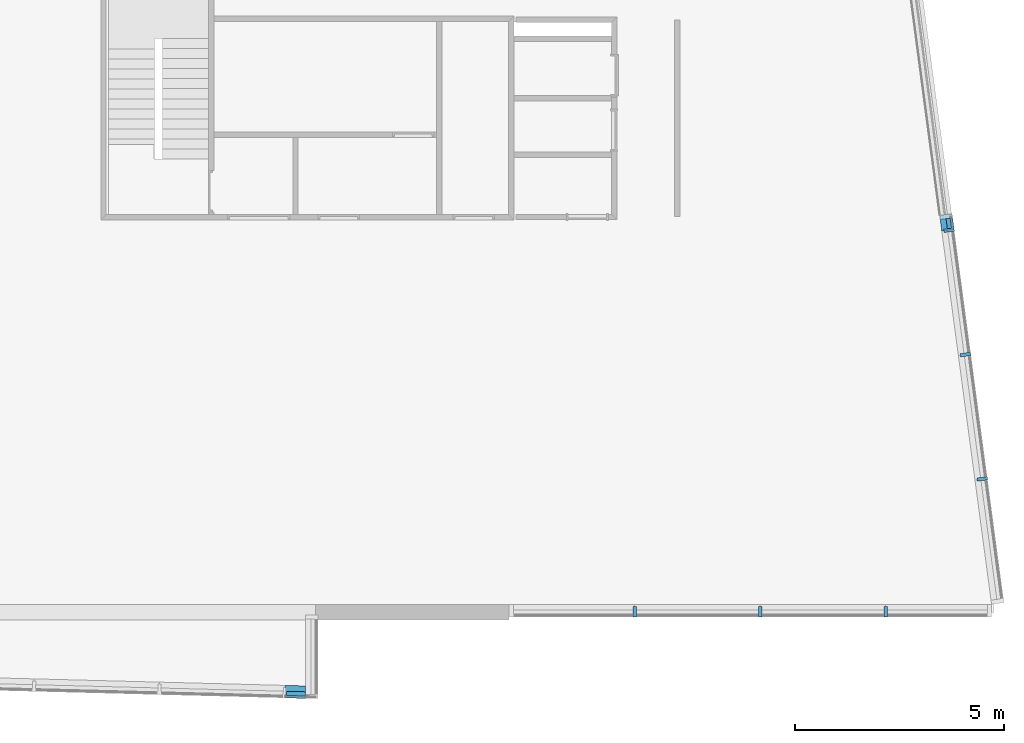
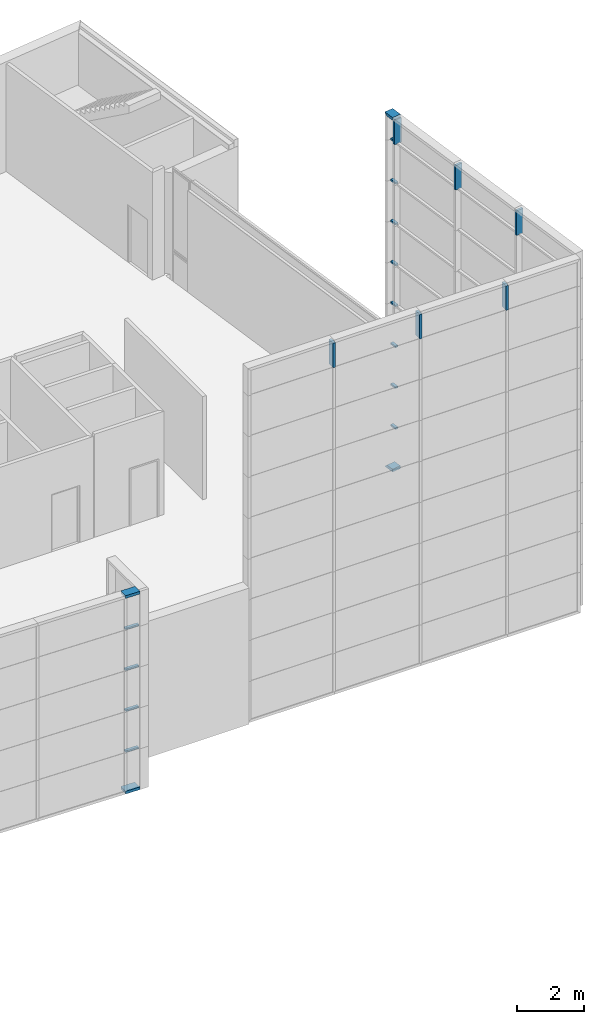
# One storey, part 13 of 27: 22 members, 3 elements without a shape of their own.
"""IFC2X3 building model written with IfcOpenShell, lengths in metres."""

from ifc_helpers import new_model, entity, si_unit, converted_unit, money_unit, direction, frame, origin_with_axes, place, context, subcontext, project, spatial, polyline, outline, extrude, clip, halfspace, material, type_object, element, aggregate, save


model = new_model("IFC2X3")

# Units and contexts
model_context = context("Model", 3, precision=1e-05, world=origin_with_axes(), true_north=direction((0.0, 1.0)))
body_context = subcontext(model_context, "Body", "Model", "MODEL_VIEW")
ifc_project = project(units=[si_unit("LENGTHUNIT", "METRE"), si_unit("AREAUNIT", "SQUARE_METRE"), si_unit("VOLUMEUNIT", "CUBIC_METRE"), converted_unit("PLANEANGLEUNIT", "DEGREE", entity("IfcPlaneAngleMeasure", 0.0174532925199), si_unit("PLANEANGLEUNIT", "RADIAN"), dimensions=[0, 0, 0, 0, 0, 0, 0]), si_unit("SOLIDANGLEUNIT", "STERADIAN"), money_unit("EUR"), converted_unit("TIMEUNIT", "Year", entity("IfcTimeMeasure", 31556926.0), si_unit("TIMEUNIT", "SECOND"), dimensions=[0, 0, 0, 0, 0, 0, 0]), si_unit("MASSUNIT", "GRAM"), si_unit("THERMODYNAMICTEMPERATUREUNIT", "DEGREE_CELSIUS"), si_unit("LUMINOUSINTENSITYUNIT", "LUMEN")], contexts=[model_context])

# Site, building, storey
site_placement = place(None, origin_with_axes())
site = spatial("IfcSite", under=ifc_project, at=site_placement, Name="Undefined", CompositionType="ELEMENT")
building_placement = place(site_placement, origin_with_axes())
building = spatial("IfcBuilding", under=site, at=building_placement, Name="Undefined", CompositionType="ELEMENT")
storey_placement = place(building_placement, frame((0.0, 0.0, 5.4), z_axis=(0.0, 0.0, 1.0), x_axis=(1.0, 0.0, 0.0)))
storey = spatial("IfcBuildingStorey", under=building, at=storey_placement, Name="R+1", CompositionType="ELEMENT", Elevation=5.4)

# Curtain wall, members
curtain_wall_type = type_object("IfcCurtainWallType", Name="Type de mur-rideau", PredefinedType="NOTDEFINED")
curtain_wall_1_placement = place(storey_placement, frame((68.4320700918, 1.51988738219, -1.0), z_axis=(0.0, 0.0, 1.0), x_axis=(1.0, 0.0, 0.0)))
curtain_wall_1 = element("IfcCurtainWall", 1, at=curtain_wall_1_placement, inside=storey, type_object=curtain_wall_type, Name="CurtainWall_01", ObjectType="CURTAIN WALL")
ifc_material = material(Name="25 % 359672764")
member_type_1 = type_object("IfcMemberType", Name="Cadre 100 x 300", PredefinedType="NOTDEFINED")
member_1_placement = place(curtain_wall_1_placement, frame((-0.991919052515, 7.43411706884, 0.0), z_axis=(-0.132255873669, 0.991215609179, 0.0), x_axis=(0.0, 0.0, 1.0)))
member_1 = element("IfcMember", 2, at=member_1_placement, type_object=member_type_1, material=ifc_material, Name="Frame-Bnd-830", context=body_context, shape_type="Clipping", body=[
    clip(extrude(outline(polyline([(-0.25, -0.1), (0.05, -0.1), (0.05, 0.0), (-0.25, 0.0), (-0.25, -0.1)])), frame((0.0, 0.0, 0.0), z_axis=(0.0, 0.0, 1.0), x_axis=(0.0, 1.0, 0.0)), (0.0, 0.0, 1.0), 0.382418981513), halfspace(frame((0.191209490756, 0.0, 0.191209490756), z_axis=(-0.707106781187, 0.0, -0.707106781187), x_axis=(0.0, 1.0, 0.0)), True)),
])
member_2_placement = place(curtain_wall_1_placement, frame((-1.04249621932, 7.81317680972, 13.0000000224), z_axis=(0.132255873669, -0.991215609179, 0.0), x_axis=(0.0, 0.0, -1.0)))
member_2 = element("IfcMember", 3, at=member_2_placement, type_object=member_type_1, material=ifc_material, Name="Frame-Bnd-869", context=body_context, shape_type="Clipping", body=[
    clip(extrude(outline(polyline([(0.25, 0.1), (-0.05, 0.1), (-0.05, 0.0), (0.25, 0.0), (0.25, 0.1)])), frame((0.0, 0.0, 0.0), z_axis=(0.0, 0.0, 1.0), x_axis=(0.0, -1.0, 0.0)), (0.0, 0.0, 1.0), 0.382419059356), halfspace(frame((0.0, 0.0, 0.0), z_axis=(-0.707106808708, 0.0, 0.707106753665), x_axis=(0.0, -1.0, 0.0)), True)),
])

curtain_wall_2_placement = place(storey_placement, frame((10.9994920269, -1.13484133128, -0.55), z_axis=(0.0, 0.0, 1.0), x_axis=(1.0, 0.0, 0.0)))
curtain_wall_2 = element("IfcCurtainWall", 4, at=curtain_wall_2_placement, inside=storey, type_object=curtain_wall_type, Name="CurtainWall_01", ObjectType="CURTAIN WALL")
member_3_placement = place(curtain_wall_2_placement, frame((40.4862855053, -1.05389087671, 0.0), z_axis=(0.999661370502, -0.0260219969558, 0.0), x_axis=(0.0, 0.0, 1.0)))
member_3 = element("IfcMember", 5, at=member_3_placement, type_object=member_type_1, material=ifc_material, Name="Frame-Bnd-565", context=body_context, shape_type="Clipping", body=[
    clip(extrude(outline(polyline([(-0.25, -0.1), (0.05, -0.1), (0.05, 0.0), (-0.25, 0.0), (-0.25, -0.1)])), frame((0.0, 0.0, 0.0), z_axis=(0.0, 0.0, 1.0), x_axis=(0.0, 1.0, 0.0)), (0.0, 0.0, 1.0), 0.49012124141), halfspace(frame((0.0, -0.0127157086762, 0.488488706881), z_axis=(0.0, 0.0260218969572, -0.999661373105), x_axis=(0.0, 0.999661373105, 0.0260218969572)), True)),
])
member_4_placement = place(curtain_wall_2_placement, frame((41.2249396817, -1.07311864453, 7.27506830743), z_axis=(-0.999661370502, 0.0260219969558, 0.0), x_axis=(0.0, 0.0, -1.0)))
member_4 = element("IfcMember", 6, at=member_4_placement, type_object=member_type_1, material=ifc_material, Name="Frame-Bnd-862", context=body_context, shape_type="Clipping", body=[
    clip(extrude(outline(polyline([(0.25, 0.1), (-0.05, 0.1), (-0.05, 0.0), (0.25, 0.0), (0.25, 0.1)])), frame((0.0, 0.0, 0.248783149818), z_axis=(0.0, 0.0, 1.0), x_axis=(0.0, -1.0, 0.0)), (0.0, 0.0, 1.0), 0.49012124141), halfspace(frame((0.0, 0.0065054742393, 0.249915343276), z_axis=(0.0, 0.0260218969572, 0.999661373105), x_axis=(0.0, -0.999661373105, 0.0260218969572)), True)),
])

# Member
member_type_2 = type_object("IfcMemberType", Name="Montant 80 x 250", PredefinedType="NOTDEFINED")
member_5_placement = place(curtain_wall_1_placement, frame((-0.991919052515, 7.43411706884, 12.0), z_axis=(0.0, 0.0, 1.0), x_axis=(0.132255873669, -0.991215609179, 0.0)))
member_5 = element("IfcMember", 7, at=member_5_placement, type_object=member_type_2, material=ifc_material, Name="Frame-Mll-307", context=body_context, shape_type="SweptSolid", body=[
    extrude(outline(polyline([(-0.192952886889, -0.0660997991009), (0.0548510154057, -0.0330358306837), (0.0442705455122, 0.0462614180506), (-0.203533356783, 0.0131974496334), (-0.192952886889, -0.0660997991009)])), frame((0.0, 0.0, 0.0), z_axis=(0.0, 0.0, 1.0), x_axis=(0.132255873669, 0.991215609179, 0.0)), (0.0, 0.0, 1.0), 0.900000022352),
])

member_6_placement = place(curtain_wall_1_placement, frame((-0.595151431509, 4.46047024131, 12.0), z_axis=(0.0, 0.0, 1.0), x_axis=(0.132255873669, -0.991215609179, 0.0)))
member_6 = element("IfcMember", 8, at=member_6_placement, type_object=member_type_2, material=ifc_material, Name="Frame-Mll-306", context=body_context, shape_type="SweptSolid", body=[
    extrude(outline(polyline([(-0.192952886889, -0.0660997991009), (0.0548510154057, -0.0330358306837), (0.0442705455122, 0.0462614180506), (-0.203533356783, 0.0131974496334), (-0.192952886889, -0.0660997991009)])), frame((0.0, 0.0, 0.0), z_axis=(0.0, 0.0, 1.0), x_axis=(0.132255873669, 0.991215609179, 0.0)), (0.0, 0.0, 1.0), 0.900000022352),
])

member_7_placement = place(curtain_wall_1_placement, frame((-0.198383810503, 1.48682341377, 12.0), z_axis=(0.0, 0.0, 1.0), x_axis=(0.132255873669, -0.991215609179, 0.0)))
member_7 = element("IfcMember", 9, at=member_7_placement, type_object=member_type_2, material=ifc_material, Name="Frame-Mll-305", context=body_context, shape_type="SweptSolid", body=[
    extrude(outline(polyline([(-0.192952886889, -0.0660997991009), (0.0548510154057, -0.0330358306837), (0.0442705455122, 0.0462614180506), (-0.203533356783, 0.0131974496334), (-0.192952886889, -0.0660997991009)])), frame((0.0, 0.0, 0.0), z_axis=(0.0, 0.0, 1.0), x_axis=(0.132255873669, 0.991215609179, 0.0)), (0.0, 0.0, 1.0), 0.900000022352),
])

# Curtain wall, members
curtain_wall_3_placement = place(storey_placement, frame((58.35, -0.25, -1.0), z_axis=(0.0, 0.0, 1.0), x_axis=(1.0, 0.0, 0.0)))
curtain_wall_3 = element("IfcCurtainWall", 10, at=curtain_wall_3_placement, inside=storey, type_object=curtain_wall_type, Name="CurtainWall_01", ObjectType="CURTAIN WALL")
member_8_placement = place(curtain_wall_3_placement, frame((1.5, 0.0, 12.0), z_axis=(0.0, 0.0, 1.0), x_axis=(-1.0, 0.0, 0.0)))
member_8 = element("IfcMember", 11, at=member_8_placement, type_object=member_type_2, material=ifc_material, Name="Frame-Mll-314", context=body_context, shape_type="SweptSolid", body=[
    extrude(outline(polyline([(-0.04, 0.2), (-0.04, -0.05), (0.04, -0.05), (0.04, 0.2), (-0.04, 0.2)])), frame((0.0, 0.0, 0.0), z_axis=(0.0, 0.0, 1.0), x_axis=(-1.0, 0.0, 0.0)), (0.0, 0.0, 1.0), 0.900000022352),
])
member_9_placement = place(curtain_wall_3_placement, frame((4.5, 0.0, 12.0), z_axis=(0.0, 0.0, 1.0), x_axis=(-1.0, 0.0, 0.0)))
member_9 = element("IfcMember", 12, at=member_9_placement, type_object=member_type_2, material=ifc_material, Name="Frame-Mll-315", context=body_context, shape_type="SweptSolid", body=[
    extrude(outline(polyline([(-0.04, 0.2), (-0.04, -0.05), (0.04, -0.05), (0.04, 0.2), (-0.04, 0.2)])), frame((0.0, 0.0, 0.0), z_axis=(0.0, 0.0, 1.0), x_axis=(-1.0, 0.0, 0.0)), (0.0, 0.0, 1.0), 0.900000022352),
])
member_10_placement = place(curtain_wall_3_placement, frame((7.5, 0.0, 12.0), z_axis=(0.0, 0.0, 1.0), x_axis=(-1.0, 0.0, 0.0)))
member_10 = element("IfcMember", 13, at=member_10_placement, type_object=member_type_2, material=ifc_material, Name="Frame-Mll-316", context=body_context, shape_type="SweptSolid", body=[
    extrude(outline(polyline([(-0.04, 0.2), (-0.04, -0.05), (0.04, -0.05), (0.04, 0.2), (-0.04, 0.2)])), frame((0.0, 0.0, 0.0), z_axis=(0.0, 0.0, 1.0), x_axis=(-1.0, 0.0, 0.0)), (0.0, 0.0, 1.0), 0.900000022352),
])
aggregate(curtain_wall_3, [member_8, member_9, member_10])

# Member
member_type_3 = type_object("IfcMemberType", Name="Traverse 60 x 100", PredefinedType="NOTDEFINED")
member_11_placement = place(curtain_wall_1_placement, frame((-0.991919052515, 7.43411706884, 3.0), z_axis=(-0.132255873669, 0.991215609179, 0.0), x_axis=(0.0, 0.0, 1.0)))
member_11 = element("IfcMember", 14, at=member_11_placement, type_object=member_type_3, material=ifc_material, Name="Frame-Trs-757", context=body_context, shape_type="SweptSolid", body=[
    extrude(outline(polyline([(-0.11, -0.03), (-0.00999999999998, -0.03), (-0.00999999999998, 0.03), (-0.11, 0.03), (-0.11, -0.03)])), frame((0.0, 0.0, 0.04), z_axis=(0.0, 0.0, 1.0), x_axis=(0.0, 1.0, 0.0)), (0.0, 0.0, 1.0), 0.242418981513),
])

member_12_placement = place(curtain_wall_1_placement, frame((-0.991919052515, 7.43411706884, 10.5), z_axis=(-0.132255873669, 0.991215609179, 0.0), x_axis=(0.0, 0.0, 1.0)))
member_12 = element("IfcMember", 15, at=member_12_placement, type_object=member_type_3, material=ifc_material, Name="Frame-Trs-752", context=body_context, shape_type="SweptSolid", body=[
    extrude(outline(polyline([(-0.11, -0.03), (-0.00999999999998, -0.03), (-0.00999999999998, 0.03), (-0.11, 0.03), (-0.11, -0.03)])), frame((0.0, 0.0, 0.04), z_axis=(0.0, 0.0, 1.0), x_axis=(0.0, 1.0, 0.0)), (0.0, 0.0, 1.0), 0.242418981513),
])

member_13_placement = place(curtain_wall_1_placement, frame((-0.991919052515, 7.43411706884, 6.0), z_axis=(-0.132255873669, 0.991215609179, 0.0), x_axis=(0.0, 0.0, 1.0)))
member_13 = element("IfcMember", 16, at=member_13_placement, type_object=member_type_3, material=ifc_material, Name="Frame-Trs-755", context=body_context, shape_type="SweptSolid", body=[
    extrude(outline(polyline([(-0.11, -0.03), (-0.00999999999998, -0.03), (-0.00999999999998, 0.03), (-0.11, 0.03), (-0.11, -0.03)])), frame((0.0, 0.0, 0.04), z_axis=(0.0, 0.0, 1.0), x_axis=(0.0, 1.0, 0.0)), (0.0, 0.0, 1.0), 0.242418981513),
])

member_14_placement = place(curtain_wall_1_placement, frame((-0.991919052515, 7.43411706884, 4.5), z_axis=(-0.132255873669, 0.991215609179, 0.0), x_axis=(0.0, 0.0, 1.0)))
member_14 = element("IfcMember", 17, at=member_14_placement, type_object=member_type_3, material=ifc_material, Name="Frame-Trs-756", context=body_context, shape_type="SweptSolid", body=[
    extrude(outline(polyline([(-0.11, -0.03), (-0.00999999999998, -0.03), (-0.00999999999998, 0.03), (-0.11, 0.03), (-0.11, -0.03)])), frame((0.0, 0.0, 0.04), z_axis=(0.0, 0.0, 1.0), x_axis=(0.0, 1.0, 0.0)), (0.0, 0.0, 1.0), 0.242418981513),
])

member_15_placement = place(curtain_wall_1_placement, frame((-0.991919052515, 7.43411706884, 7.5), z_axis=(-0.132255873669, 0.991215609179, 0.0), x_axis=(0.0, 0.0, 1.0)))
member_15 = element("IfcMember", 18, at=member_15_placement, type_object=member_type_3, material=ifc_material, Name="Frame-Trs-754", context=body_context, shape_type="SweptSolid", body=[
    extrude(outline(polyline([(-0.11, -0.03), (-0.00999999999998, -0.03), (-0.00999999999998, 0.03), (-0.11, 0.03), (-0.11, -0.03)])), frame((0.0, 0.0, 0.04), z_axis=(0.0, 0.0, 1.0), x_axis=(0.0, 1.0, 0.0)), (0.0, 0.0, 1.0), 0.242418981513),
])

member_16_placement = place(curtain_wall_1_placement, frame((-0.991919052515, 7.43411706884, 9.0), z_axis=(-0.132255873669, 0.991215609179, 0.0), x_axis=(0.0, 0.0, 1.0)))
member_16 = element("IfcMember", 19, at=member_16_placement, type_object=member_type_3, material=ifc_material, Name="Frame-Trs-753", context=body_context, shape_type="SweptSolid", body=[
    extrude(outline(polyline([(-0.11, -0.03), (-0.00999999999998, -0.03), (-0.00999999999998, 0.03), (-0.11, 0.03), (-0.11, -0.03)])), frame((0.0, 0.0, 0.04), z_axis=(0.0, 0.0, 1.0), x_axis=(0.0, 1.0, 0.0)), (0.0, 0.0, 1.0), 0.242418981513),
])

member_17_placement = place(curtain_wall_1_placement, frame((-0.991919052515, 7.43411706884, 12.0), z_axis=(-0.132255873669, 0.991215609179, 0.0), x_axis=(0.0, 0.0, 1.0)))
member_17 = element("IfcMember", 20, at=member_17_placement, type_object=member_type_3, material=ifc_material, Name="Frame-Trs-773", context=body_context, shape_type="SweptSolid", body=[
    extrude(outline(polyline([(-0.11, -0.03), (-0.00999999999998, -0.03), (-0.00999999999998, 0.03), (-0.11, 0.03), (-0.11, -0.03)])), frame((0.0, 0.0, 0.04), z_axis=(0.0, 0.0, 1.0), x_axis=(0.0, 1.0, 0.0)), (0.0, 0.0, 1.0), 0.242418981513),
])

member_18_placement = place(curtain_wall_1_placement, frame((-0.991919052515, 7.43411706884, 1.5), z_axis=(-0.132255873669, 0.991215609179, 0.0), x_axis=(0.0, 0.0, 1.0)))
member_18 = element("IfcMember", 21, at=member_18_placement, type_object=member_type_3, material=ifc_material, Name="Frame-Trs-758", context=body_context, shape_type="SweptSolid", body=[
    extrude(outline(polyline([(-0.11, -0.03), (-0.00999999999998, -0.03), (-0.00999999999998, 0.03), (-0.11, 0.03), (-0.11, -0.03)])), frame((0.0, 0.0, 0.04), z_axis=(0.0, 0.0, 1.0), x_axis=(0.0, 1.0, 0.0)), (0.0, 0.0, 1.0), 0.242418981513),
])

aggregate(curtain_wall_1, [member_1, member_11, member_5, member_12, member_13, member_14, member_15, member_16, member_2, member_17, member_18, member_6, member_7])

member_19_placement = place(curtain_wall_2_placement, frame((40.4862855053, -1.05389087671, 6.0), z_axis=(0.999661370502, -0.0260219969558, 0.0), x_axis=(0.0, 0.0, 1.0)))
member_19 = element("IfcMember", 22, at=member_19_placement, type_object=member_type_3, material=ifc_material, Name="Frame-Trs-606", context=body_context, shape_type="Clipping", body=[
    clip(extrude(outline(polyline([(-0.11, -0.03), (-0.01, -0.03), (-0.01, 0.03), (-0.11, 0.03), (-0.11, -0.03)])), frame((0.0, 0.0, 0.04), z_axis=(0.0, 0.0, 1.0), x_axis=(0.0, 1.0, 0.0)), (0.0, 0.0, 1.0), 0.44855939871), halfspace(frame((0.0, -0.0127157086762, 0.488488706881), z_axis=(0.0, 0.0260218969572, -0.999661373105), x_axis=(0.0, 0.999661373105, 0.0260218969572)), True)),
])

member_20_placement = place(curtain_wall_2_placement, frame((40.4862855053, -1.05389087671, 4.5), z_axis=(0.999661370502, -0.0260219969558, 0.0), x_axis=(0.0, 0.0, 1.0)))
member_20 = element("IfcMember", 23, at=member_20_placement, type_object=member_type_3, material=ifc_material, Name="Frame-Trs-607", context=body_context, shape_type="Clipping", body=[
    clip(extrude(outline(polyline([(-0.11, -0.03), (-0.01, -0.03), (-0.01, 0.03), (-0.11, 0.03), (-0.11, -0.03)])), frame((0.0, 0.0, 0.04), z_axis=(0.0, 0.0, 1.0), x_axis=(0.0, 1.0, 0.0)), (0.0, 0.0, 1.0), 0.44855939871), halfspace(frame((0.0, -0.0127157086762, 0.488488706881), z_axis=(0.0, 0.0260218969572, -0.999661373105), x_axis=(0.0, 0.999661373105, 0.0260218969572)), True)),
])

member_21_placement = place(curtain_wall_2_placement, frame((40.4862855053, -1.05389087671, 3.0), z_axis=(0.999661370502, -0.0260219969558, 0.0), x_axis=(0.0, 0.0, 1.0)))
member_21 = element("IfcMember", 24, at=member_21_placement, type_object=member_type_3, material=ifc_material, Name="Frame-Trs-608", context=body_context, shape_type="Clipping", body=[
    clip(extrude(outline(polyline([(-0.11, -0.03), (-0.01, -0.03), (-0.01, 0.03), (-0.11, 0.03), (-0.11, -0.03)])), frame((0.0, 0.0, 0.04), z_axis=(0.0, 0.0, 1.0), x_axis=(0.0, 1.0, 0.0)), (0.0, 0.0, 1.0), 0.44855939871), halfspace(frame((0.0, -0.0127157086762, 0.488488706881), z_axis=(0.0, 0.0260218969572, -0.999661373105), x_axis=(0.0, 0.999661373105, 0.0260218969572)), True)),
])

member_22_placement = place(curtain_wall_2_placement, frame((40.4862855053, -1.05389087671, 1.5), z_axis=(0.999661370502, -0.0260219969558, 0.0), x_axis=(0.0, 0.0, 1.0)))
member_22 = element("IfcMember", 25, at=member_22_placement, type_object=member_type_3, material=ifc_material, Name="Frame-Trs-609", context=body_context, shape_type="Clipping", body=[
    clip(extrude(outline(polyline([(-0.11, -0.03), (-0.01, -0.03), (-0.01, 0.03), (-0.11, 0.03), (-0.11, -0.03)])), frame((0.0, 0.0, 0.04), z_axis=(0.0, 0.0, 1.0), x_axis=(0.0, 1.0, 0.0)), (0.0, 0.0, 1.0), 0.44855939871), halfspace(frame((0.0, -0.0127157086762, 0.488488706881), z_axis=(0.0, 0.0260218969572, -0.999661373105), x_axis=(0.0, 0.999661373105, 0.0260218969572)), True)),
])

aggregate(curtain_wall_2, [member_3, member_4, member_19, member_20, member_21, member_22])

save(model, "model.ifc")
